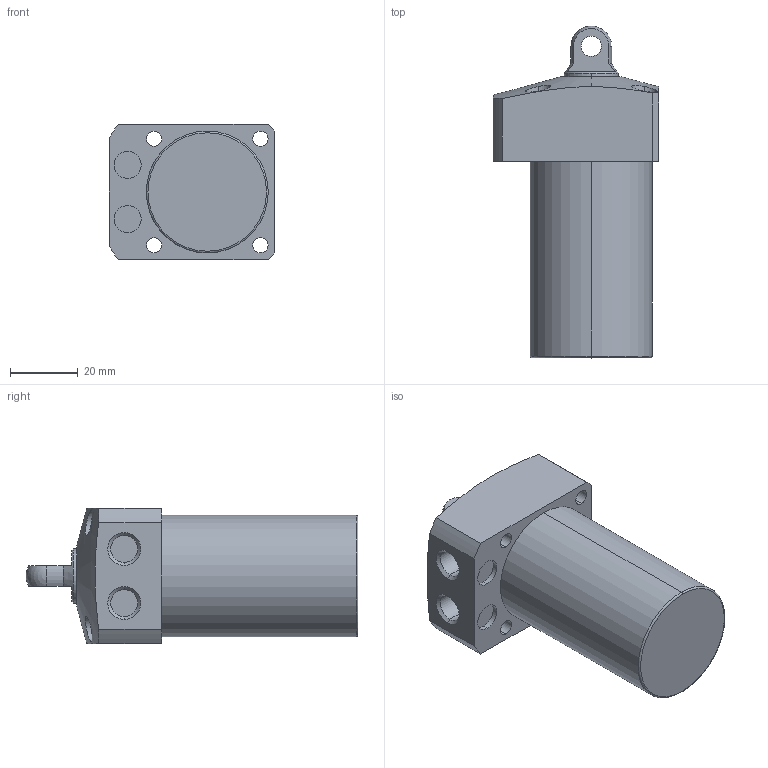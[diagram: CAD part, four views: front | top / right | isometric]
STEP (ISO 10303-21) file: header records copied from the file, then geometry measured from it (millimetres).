
FILE_DESCRIPTION (( 'STEP AP203' ), '1' );
FILE_NAME ('CLL-036CP-050.STEP', '2020-01-03T12:42:22', ( '' ), ( '' ), 'SwSTEP 2.0', 'SolidWorks 2015', '' );
FILE_SCHEMA (( 'CONFIG_CONTROL_DESIGN' ));
Length unit declared in the file: millimetre
Products named in the file (1): CLL-036CP-050
Bounding box: 49 x 98 x 40 mm (x, y, z)
Volume: 100425.5 mm3; surface area: 16607.5 mm2
Topology: 1 solids, 1 shells, 67 faces, 162 edges, 105 vertices
Faces by surface type: cylinder 34, plane 21, cone 8, sphere 2, torus 2
Entity records: 2347 total; most frequent: CARTESIAN_POINT 663, DIRECTION 354, ORIENTED_EDGE 316, EDGE_CURVE 158, AXIS2_PLACEMENT_3D 148, VERTEX_POINT 103, EDGE_LOOP 87, CIRCLE 80
